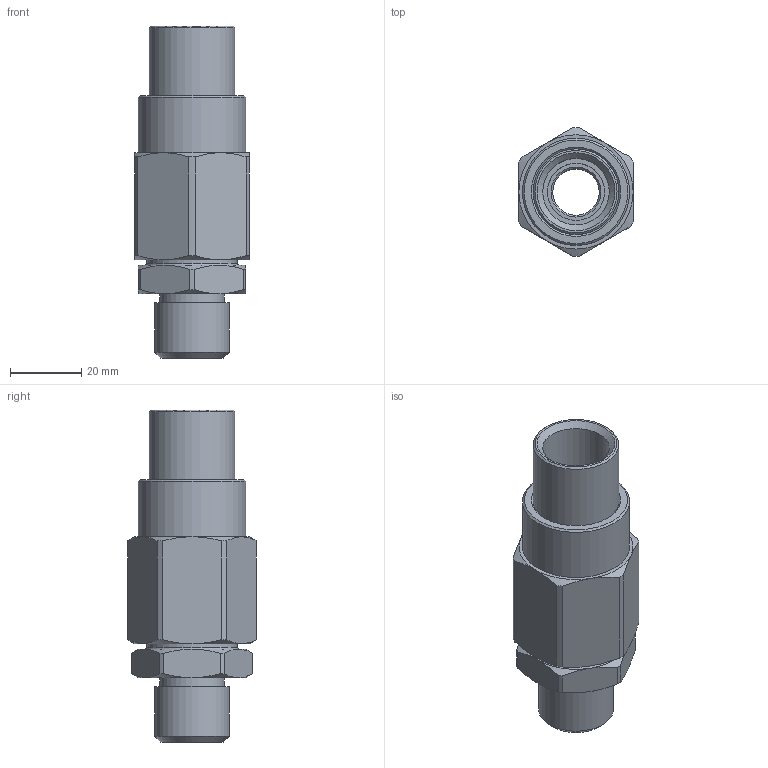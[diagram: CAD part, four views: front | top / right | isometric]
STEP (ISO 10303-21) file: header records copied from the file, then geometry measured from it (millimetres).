
FILE_DESCRIPTION((''),'2;1');
FILE_NAME('D:\WORKS\Чертежи\ТЗ\04.24\104322\ТСВНА1G.stp','2024-04-23T16:56:44',('t.v.ogurnaya'),(''),'Autodesk Inventor 2012','Autodesk Inventor 2012','');
FILE_SCHEMA(('AUTOMOTIVE_DESIGN { 1 0 10303 214 1 1 1 1 }'));
Length unit declared in the file: millimetre
Products named in the file (1): TCBHA (параметрика)_Внешний контур_1
Bounding box: 32 x 36 x 93 mm (x, y, z)
Surface area: 22933.2 mm2 (no closed solid volume)
Topology: 0 solids, 4 shells, 105 faces, 236 edges, 145 vertices
Faces by surface type: plane 38, cone 35, cylinder 31, torus 1
Full cylindrical faces by diameter (mm): 13 x1, 16 x1, 17 x1, 18 x1, 18.631 x1, 20.955 x1, 24 x2, 25 x1, 25.3 x1, 25.376 x1, 27 x1, 30 x1
Entity records: 2839 total; most frequent: CARTESIAN_POINT 544, DIRECTION 470, ORIENTED_EDGE 408, AXIS2_PLACEMENT_3D 208, EDGE_CURVE 204, EDGE_LOOP 144, VERTEX_POINT 138, FACE_OUTER_BOUND 105
